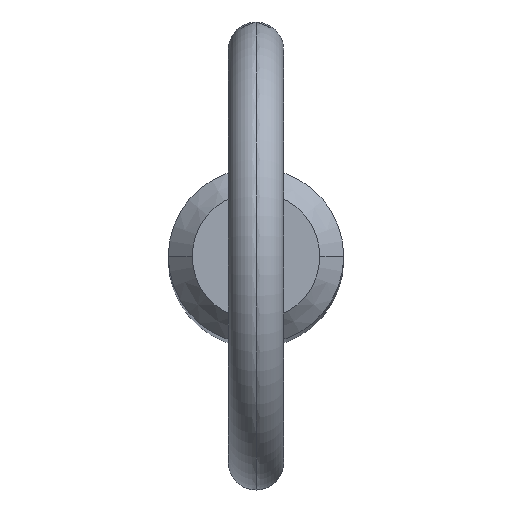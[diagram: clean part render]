
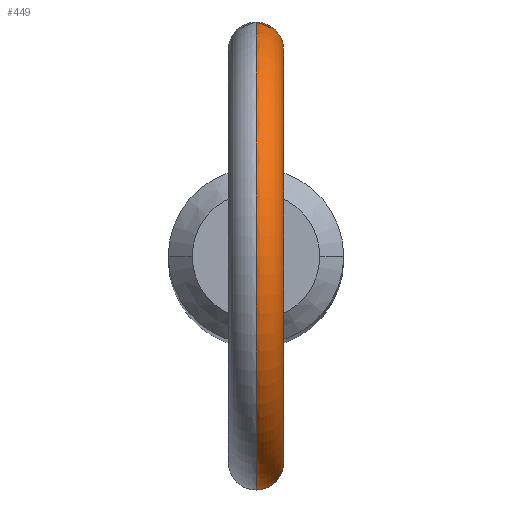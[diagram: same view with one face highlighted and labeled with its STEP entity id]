
A CAD part, top view. The second image highlights one B-rep face of the part: STEP entity #449.
In plain terms, the highlighted toroidal (fillet/blend) face has major radius 11.2 mm and minor radius 1.5 mm.
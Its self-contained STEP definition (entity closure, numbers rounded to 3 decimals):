
#3 = DIRECTION ( 'NONE',  ( 0., 0., -1. ) ) ;
#7 = FACE_OUTER_BOUND ( 'NONE', #321, .T. ) ;
#9 = CARTESIAN_POINT ( 'NONE',  ( 1.404, -4.548, 99.553 ) ) ;
#12 = CARTESIAN_POINT ( 'NONE',  ( 0.409, -4.743, 100.678 ) ) ;
#13 = EDGE_CURVE ( 'NONE', #495, #35, #415, .T. ) ;
#20 = ORIENTED_EDGE ( 'NONE', *, *, #36, .T. ) ;
#23 = CARTESIAN_POINT ( 'NONE',  ( 1.292, 4.582, 99.844 ) ) ;
#30 = CARTESIAN_POINT ( 'NONE',  ( 0.925, 4.67, 100.34 ) ) ;
#35 = VERTEX_POINT ( 'NONE', #215 ) ;
#36 = EDGE_CURVE ( 'NONE', #91, #455, #297, .T. ) ;
#42 = CARTESIAN_POINT ( 'NONE',  ( 1.503, -4.517, 98.94 ) ) ;
#43 = CARTESIAN_POINT ( 'NONE',  ( 0.512, -4.733, 97.508 ) ) ;
#54 = DIRECTION ( 'NONE',  ( 0., 0., -1. ) ) ;
#63 = CARTESIAN_POINT ( 'NONE',  ( 1.487, 4.522, 99.253 ) ) ;
#74 = CARTESIAN_POINT ( 'NONE',  ( 0., -4.76, 100.748 ) ) ;
#77 = CARTESIAN_POINT ( 'NONE',  ( 0.997, -4.655, 100.264 ) ) ;
#78 = CARTESIAN_POINT ( 'NONE',  ( 1.434, -4.539, 99.454 ) ) ;
#91 = VERTEX_POINT ( 'NONE', #496 ) ;
#107 = CARTESIAN_POINT ( 'NONE',  ( 0.415, 4.745, 100.688 ) ) ;
#109 = CARTESIAN_POINT ( 'NONE',  ( 1.239, 4.596, 98.059 ) ) ;
#111 = CARTESIAN_POINT ( 'NONE',  ( 0.685, 4.711, 100.536 ) ) ;
#120 = CARTESIAN_POINT ( 'NONE',  ( 1.478, -4.525, 99.252 ) ) ;
#124 = CARTESIAN_POINT ( 'NONE',  ( 0., -4.76, 97.426 ) ) ;
#127 = CARTESIAN_POINT ( 'NONE',  ( 0.77, -4.698, 100.475 ) ) ;
#136 = DIRECTION ( 'NONE',  ( 1., 0., 0. ) ) ;
#140 = CARTESIAN_POINT ( 'NONE',  ( 0., 0., 109.2 ) ) ;
#152 = CARTESIAN_POINT ( 'NONE',  ( 1.385, 4.554, 98.33 ) ) ;
#158 = CARTESIAN_POINT ( 'NONE',  ( 0., -4.76, 97.426 ) ) ;
#167 = CARTESIAN_POINT ( 'NONE',  ( 0.925, -4.67, 100.339 ) ) ;
#184 = CARTESIAN_POINT ( 'NONE',  ( 0.511, 4.733, 97.508 ) ) ;
#187 = CARTESIAN_POINT ( 'NONE',  ( 1.508, 4.515, 98.837 ) ) ;
#193 = AXIS2_PLACEMENT_3D ( 'NONE', #140, #136, #54 ) ;
#194 = CARTESIAN_POINT ( 'NONE',  ( 0., 0., 109.2 ) ) ;
#198 = CARTESIAN_POINT ( 'NONE',  ( 1.344, -4.567, 98.239 ) ) ;
#203 = B_SPLINE_CURVE_WITH_KNOTS ( 'NONE', 3,
 ( #74, #451, #246, #12, #287, #328, #127, #167, #77, #280, #456, #9, #78, #120, #373, #42, #454, #417, #412, #461, #198, #282, #325, #244, #332, #43, #205, #374, #492, #124 ),
 .UNSPECIFIED., .F., .F.,
 ( 4, 2, 2, 2, 2, 2, 2, 2, 2, 2, 2, 2, 2, 2, 4 ),
 ( 0.004, 0.005, 0.005, 0.005, 0.006, 0.006, 0.007, 0.007, 0.007, 0.007, 0.008, 0.008, 0.009, 0.009, 0.009 ),
 .UNSPECIFIED. ) ;
#205 = CARTESIAN_POINT ( 'NONE',  ( 0.411, -4.743, 97.477 ) ) ;
#215 = CARTESIAN_POINT ( 'NONE',  ( 0., -4.76, 100.748 ) ) ;
#217 = CARTESIAN_POINT ( 'NONE',  ( 0.104, 4.76, 97.426 ) ) ;
#223 = CARTESIAN_POINT ( 'NONE',  ( 1.441, 4.537, 99.459 ) ) ;
#244 = CARTESIAN_POINT ( 'NONE',  ( 0.97, -4.662, 97.75 ) ) ;
#246 = CARTESIAN_POINT ( 'NONE',  ( 0.209, -4.756, 100.734 ) ) ;
#264 = ORIENTED_EDGE ( 'NONE', *, *, #13, .F. ) ;
#266 = CARTESIAN_POINT ( 'NONE',  ( 1.484, 4.523, 98.628 ) ) ;
#271 = CARTESIAN_POINT ( 'NONE',  ( 0.795, 4.697, 97.628 ) ) ;
#272 = EDGE_CURVE ( 'NONE', #91, #495, #289, .T. ) ;
#280 = CARTESIAN_POINT ( 'NONE',  ( 1.19, -4.611, 100.024 ) ) ;
#282 = CARTESIAN_POINT ( 'NONE',  ( 1.24, -4.596, 98.06 ) ) ;
#287 = CARTESIAN_POINT ( 'NONE',  ( 0.506, -4.734, 100.637 ) ) ;
#289 = B_SPLINE_CURVE_WITH_KNOTS ( 'NONE', 3,
 ( #400, #217, #357, #355, #184, #271, #474, #306, #109, #509, #152, #266, #187, #63, #223, #23, #514, #517, #30, #311, #111, #107, #435, #477 ),
 .UNSPECIFIED., .F., .F.,
 ( 4, 2, 2, 2, 2, 2, 2, 2, 2, 2, 2, 4 ),
 ( 0.001, 0.001, 0.001, 0.002, 0.002, 0.002, 0.003, 0.004, 0.004, 0.005, 0.005, 0.006 ),
 .UNSPECIFIED. ) ;
#297 = CIRCLE ( 'NONE', #389, 12.7 ) ;
#306 = CARTESIAN_POINT ( 'NONE',  ( 1.177, 4.613, 97.975 ) ) ;
#311 = CARTESIAN_POINT ( 'NONE',  ( 0.771, 4.698, 100.475 ) ) ;
#321 = EDGE_LOOP ( 'NONE', ( #384, #20, #371, #264 ) ) ;
#325 = CARTESIAN_POINT ( 'NONE',  ( 1.178, -4.613, 97.976 ) ) ;
#328 = CARTESIAN_POINT ( 'NONE',  ( 0.687, -4.711, 100.535 ) ) ;
#332 = CARTESIAN_POINT ( 'NONE',  ( 0.797, -4.697, 97.629 ) ) ;
#344 = DIRECTION ( 'NONE',  ( 1., 0., 0. ) ) ;
#348 = DIRECTION ( 'NONE',  ( 0., 0., -1. ) ) ;
#355 = CARTESIAN_POINT ( 'NONE',  ( 0.411, 4.743, 97.477 ) ) ;
#357 = CARTESIAN_POINT ( 'NONE',  ( 0.207, 4.757, 97.436 ) ) ;
#369 = AXIS2_PLACEMENT_3D ( 'NONE', #194, #487, #3 ) ;
#371 = ORIENTED_EDGE ( 'NONE', *, *, #486, .F. ) ;
#373 = CARTESIAN_POINT ( 'NONE',  ( 1.492, -4.52, 99.148 ) ) ;
#374 = CARTESIAN_POINT ( 'NONE',  ( 0.208, -4.757, 97.436 ) ) ;
#384 = ORIENTED_EDGE ( 'NONE', *, *, #272, .F. ) ;
#389 = AXIS2_PLACEMENT_3D ( 'NONE', #468, #344, #348 ) ;
#400 = CARTESIAN_POINT ( 'NONE',  ( 0., 4.76, 97.426 ) ) ;
#412 = CARTESIAN_POINT ( 'NONE',  ( 1.45, -4.534, 98.528 ) ) ;
#415 = CIRCLE ( 'NONE', #193, 9.7 ) ;
#417 = CARTESIAN_POINT ( 'NONE',  ( 1.473, -4.526, 98.631 ) ) ;
#427 = TOROIDAL_SURFACE ( 'NONE', #369, 11.2, 1.5 ) ;
#435 = CARTESIAN_POINT ( 'NONE',  ( 0.208, 4.76, 100.748 ) ) ;
#449 = ADVANCED_FACE ( 'NONE', ( #7 ), #427, .T. ) ;
#451 = CARTESIAN_POINT ( 'NONE',  ( 0.104, -4.76, 100.748 ) ) ;
#454 = CARTESIAN_POINT ( 'NONE',  ( 1.499, -4.518, 98.837 ) ) ;
#455 = VERTEX_POINT ( 'NONE', #158 ) ;
#456 = CARTESIAN_POINT ( 'NONE',  ( 1.293, -4.582, 99.842 ) ) ;
#461 = CARTESIAN_POINT ( 'NONE',  ( 1.385, -4.554, 98.332 ) ) ;
#468 = CARTESIAN_POINT ( 'NONE',  ( 0., 0., 109.2 ) ) ;
#474 = CARTESIAN_POINT ( 'NONE',  ( 0.968, 4.663, 97.749 ) ) ;
#477 = CARTESIAN_POINT ( 'NONE',  ( 0., 4.76, 100.748 ) ) ;
#486 = EDGE_CURVE ( 'NONE', #35, #455, #203, .T. ) ;
#487 = DIRECTION ( 'NONE',  ( 1., 0., 0. ) ) ;
#489 = CARTESIAN_POINT ( 'NONE',  ( 0., 4.76, 100.748 ) ) ;
#492 = CARTESIAN_POINT ( 'NONE',  ( 0.105, -4.76, 97.426 ) ) ;
#495 = VERTEX_POINT ( 'NONE', #489 ) ;
#496 = CARTESIAN_POINT ( 'NONE',  ( 0., 4.76, 97.426 ) ) ;
#509 = CARTESIAN_POINT ( 'NONE',  ( 1.343, 4.567, 98.237 ) ) ;
#514 = CARTESIAN_POINT ( 'NONE',  ( 1.188, 4.611, 100.027 ) ) ;
#517 = CARTESIAN_POINT ( 'NONE',  ( 0.996, 4.655, 100.266 ) ) ;
